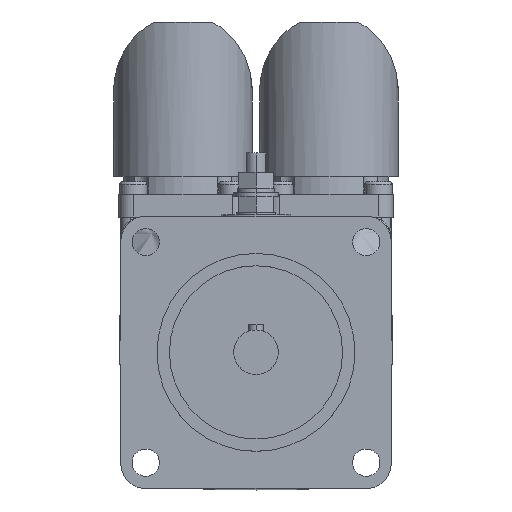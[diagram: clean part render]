
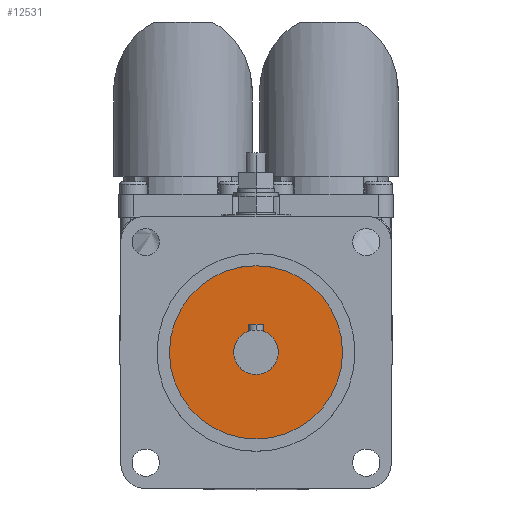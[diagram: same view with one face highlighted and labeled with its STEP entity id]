
A CAD part, top view. The second image highlights one B-rep face of the part: STEP entity #12531.
In plain terms, the highlighted planar face has unit normal (0, 0, 1).
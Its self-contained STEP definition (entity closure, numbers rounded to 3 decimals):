
#2047 = CIRCLE ( 'NONE', #8194, 17.5 ) ;
#2116 = CIRCLE ( 'NONE', #8216, 4.5 ) ;
#2266 = CIRCLE ( 'NONE', #4208, 4.5 ) ;
#2275 = CIRCLE ( 'NONE', #4209, 17.5 ) ;
#3618 = CARTESIAN_POINT ( 'NONE',  ( 0., 0., 128.5 ) ) ;
#3619 = DIRECTION ( 'NONE',  ( 0., 0., 1. ) ) ;
#3620 = DIRECTION ( 'NONE',  ( 1., 0., 0. ) ) ;
#3705 = CARTESIAN_POINT ( 'NONE',  ( 0., 0., 128.5 ) ) ;
#3716 = DIRECTION ( 'NONE',  ( 0., 0., 1. ) ) ;
#3717 = DIRECTION ( 'NONE',  ( 1., 0., 0. ) ) ;
#4208 = AXIS2_PLACEMENT_3D ( 'NONE', #4494, #4496, #4497 ) ;
#4209 = AXIS2_PLACEMENT_3D ( 'NONE', #4504, #4509, #4510 ) ;
#4313 = AXIS2_PLACEMENT_3D ( 'NONE', #5918, #5920, #5921 ) ;
#4494 = CARTESIAN_POINT ( 'NONE',  ( 0., 0., 128.5 ) ) ;
#4496 = DIRECTION ( 'NONE',  ( 0., 0., 1. ) ) ;
#4497 = DIRECTION ( 'NONE',  ( 1., 0., 0. ) ) ;
#4504 = CARTESIAN_POINT ( 'NONE',  ( 0., 0., 128.5 ) ) ;
#4509 = DIRECTION ( 'NONE',  ( 0., 0., 1. ) ) ;
#4510 = DIRECTION ( 'NONE',  ( 1., 0., 0. ) ) ;
#5092 = CARTESIAN_POINT ( 'NONE',  ( -4.5, 0., 128.5 ) ) ;
#5114 = CARTESIAN_POINT ( 'NONE',  ( -17.5, 0., 128.5 ) ) ;
#5504 = FACE_OUTER_BOUND ( 'NONE', #13240, .T. ) ;
#5508 = FACE_BOUND ( 'NONE', #13251, .T. ) ;
#5724 = CARTESIAN_POINT ( 'NONE',  ( 17.5, 0., 128.5 ) ) ;
#5918 = CARTESIAN_POINT ( 'NONE',  ( 0., 0., 128.5 ) ) ;
#5919 = PLANE ( 'NONE',  #4313 ) ;
#5920 = DIRECTION ( 'NONE',  ( 0., 0., 1. ) ) ;
#5921 = DIRECTION ( 'NONE',  ( 1., 0., 0. ) ) ;
#6158 = CARTESIAN_POINT ( 'NONE',  ( 4.5, 0., 128.5 ) ) ;
#8194 = AXIS2_PLACEMENT_3D ( 'NONE', #3618, #3619, #3620 ) ;
#8216 = AXIS2_PLACEMENT_3D ( 'NONE', #3705, #3716, #3717 ) ;
#9077 = ORIENTED_EDGE ( 'NONE', *, *, #12161, .F. ) ;
#9078 = ORIENTED_EDGE ( 'NONE', *, *, #12020, .F. ) ;
#9079 = ORIENTED_EDGE ( 'NONE', *, *, #12166, .T. ) ;
#9080 = ORIENTED_EDGE ( 'NONE', *, *, #11979, .T. ) ;
#11979 = EDGE_CURVE ( 'NONE', #12429, #12400, #2047, .T. ) ;
#12020 = EDGE_CURVE ( 'NONE', #12378, #12604, #2116, .T. ) ;
#12161 = EDGE_CURVE ( 'NONE', #12604, #12378, #2266, .T. ) ;
#12166 = EDGE_CURVE ( 'NONE', #12400, #12429, #2275, .T. ) ;
#12378 = VERTEX_POINT ( 'NONE', #5092 ) ;
#12400 = VERTEX_POINT ( 'NONE', #5114 ) ;
#12429 = VERTEX_POINT ( 'NONE', #5724 ) ;
#12531 = ADVANCED_FACE ( 'NONE', ( #5504, #5508 ), #5919, .T. ) ;
#12604 = VERTEX_POINT ( 'NONE', #6158 ) ;
#13240 = EDGE_LOOP ( 'NONE', ( #9080, #9079 ) ) ;
#13251 = EDGE_LOOP ( 'NONE', ( #9078, #9077 ) ) ;
